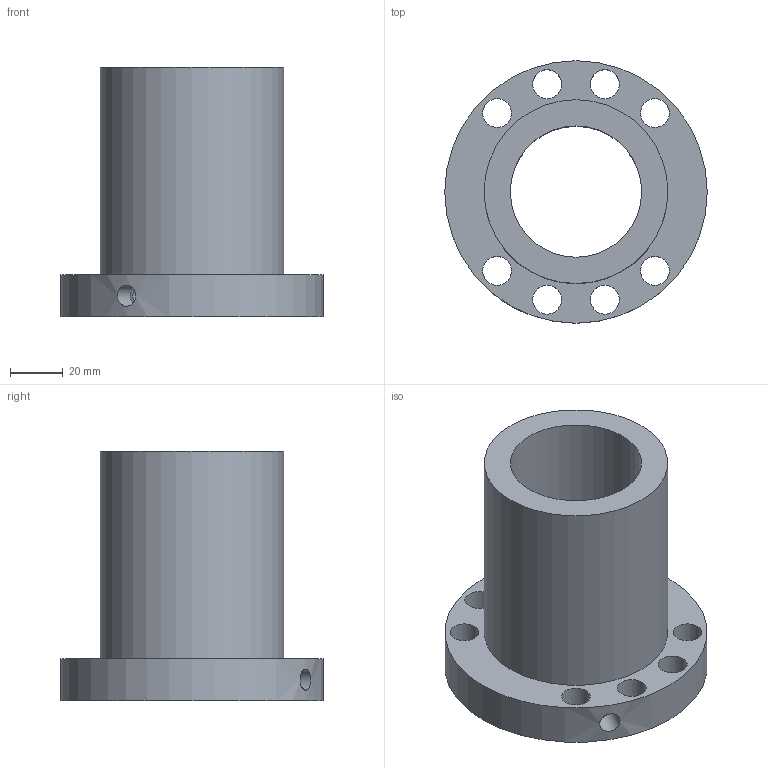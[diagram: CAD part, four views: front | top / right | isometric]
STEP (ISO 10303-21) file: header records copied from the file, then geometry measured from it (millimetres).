
FILE_DESCRIPTION(/* description */ (''),/* implementation_level */ '2;1');
FILE_NAME(/* name */ '50-5K5_3175',/* time_stamp */ '2007-10-15T12:53:53+08:00',/* author */ (''),/* organization */ (''),/* preprocessor_version */ 'ST-DEVELOPER v11',/* originating_system */ 'UGS - NX 5.0',/* authorisation */ '');
FILE_SCHEMA (('CONFIG_CONTROL_DESIGN'));
Length unit declared in the file: millimetre
Products named in the file (1): 50-5K5_3175
Bounding box: 100 x 100 x 95 mm (x, y, z)
Volume: 230069.4 mm3; surface area: 52483.1 mm2
Topology: 1 solids, 1 shells, 17 faces, 40 edges, 27 vertices
Faces by surface type: cylinder 13, plane 4
Full cylindrical faces by diameter (mm): 6 x1, 8 x1, 11 x8, 50 x1, 70 x1, 100 x1
Entity records: 668 total; most frequent: CARTESIAN_POINT 184, DIRECTION 84, FACE_BOUND 52, EDGE_LOOP 52, ORIENTED_EDGE 52, AXIS2_PLACEMENT_3D 42, VERTEX_POINT 26, EDGE_CURVE 26
